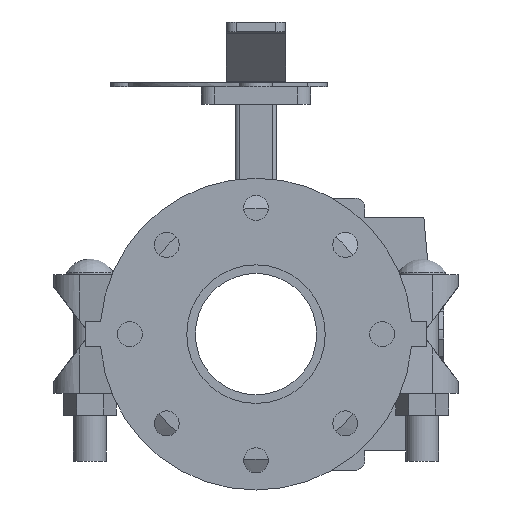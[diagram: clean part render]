
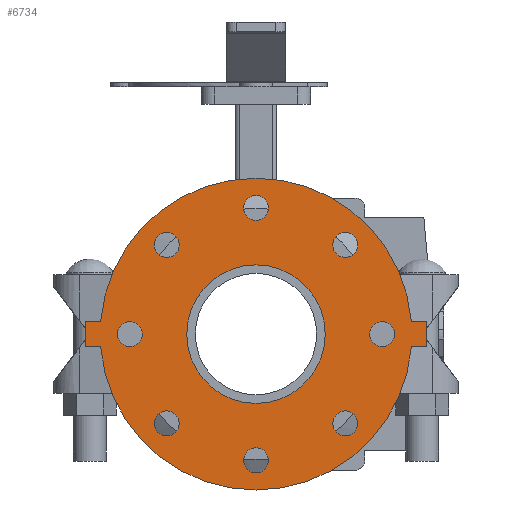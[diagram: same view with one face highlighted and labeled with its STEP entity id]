
A CAD part, front view. The second image highlights one B-rep face of the part: STEP entity #6734.
In plain terms, the highlighted planar face has unit normal (0, -1, 0) as drawn and (0, 0, -1) by its records, which use the part's own axes.
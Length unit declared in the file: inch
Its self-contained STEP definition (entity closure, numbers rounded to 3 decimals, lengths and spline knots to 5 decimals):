
#159=FACE_BOUND('',#834,.T.);
#160=FACE_BOUND('',#835,.T.);
#161=FACE_BOUND('',#836,.T.);
#162=FACE_BOUND('',#837,.T.);
#163=FACE_BOUND('',#838,.T.);
#164=FACE_BOUND('',#839,.T.);
#165=FACE_BOUND('',#840,.T.);
#166=FACE_BOUND('',#841,.T.);
#167=FACE_BOUND('',#842,.T.);
#244=PLANE('',#7299);
#462=FACE_OUTER_BOUND('',#833,.T.);
#833=EDGE_LOOP('',(#4374,#4375,#4376,#4377,#4378,#4379,#4380,#4381));
#834=EDGE_LOOP('',(#4382));
#835=EDGE_LOOP('',(#4383));
#836=EDGE_LOOP('',(#4384));
#837=EDGE_LOOP('',(#4385));
#838=EDGE_LOOP('',(#4386));
#839=EDGE_LOOP('',(#4387));
#840=EDGE_LOOP('',(#4388));
#841=EDGE_LOOP('',(#4389));
#842=EDGE_LOOP('',(#4390));
#1268=LINE('',#10213,#1787);
#1271=LINE('',#10219,#1790);
#1274=LINE('',#10224,#1793);
#1276=LINE('',#10229,#1795);
#1280=LINE('',#10236,#1799);
#1282=LINE('',#10239,#1801);
#1787=VECTOR('',#8129,0.3937);
#1790=VECTOR('',#8134,0.3937);
#1793=VECTOR('',#8139,0.3937);
#1795=VECTOR('',#8143,0.3937);
#1799=VECTOR('',#8149,0.3937);
#1801=VECTOR('',#8153,0.3937);
#2294=CIRCLE('',#7261,0.315);
#2296=CIRCLE('',#7264,0.315);
#2298=CIRCLE('',#7267,0.315);
#2300=CIRCLE('',#7270,0.315);
#2302=CIRCLE('',#7273,0.315);
#2304=CIRCLE('',#7276,0.315);
#2306=CIRCLE('',#7279,0.315);
#2308=CIRCLE('',#7282,0.315);
#2309=CIRCLE('',#7284,1.75);
#2311=CIRCLE('',#7287,3.94);
#2314=CIRCLE('',#7291,3.94);
#2681=VERTEX_POINT('',#10142);
#2683=VERTEX_POINT('',#10148);
#2685=VERTEX_POINT('',#10154);
#2687=VERTEX_POINT('',#10160);
#2689=VERTEX_POINT('',#10166);
#2691=VERTEX_POINT('',#10172);
#2693=VERTEX_POINT('',#10178);
#2695=VERTEX_POINT('',#10184);
#2696=VERTEX_POINT('',#10188);
#2698=VERTEX_POINT('',#10194);
#2700=VERTEX_POINT('',#10197);
#2702=VERTEX_POINT('',#10203);
#2705=VERTEX_POINT('',#10208);
#2706=VERTEX_POINT('',#10212);
#2708=VERTEX_POINT('',#10218);
#2710=VERTEX_POINT('',#10227);
#2711=VERTEX_POINT('',#10228);
#3329=EDGE_CURVE('',#2681,#2681,#2294,.T.);
#3332=EDGE_CURVE('',#2683,#2683,#2296,.T.);
#3335=EDGE_CURVE('',#2685,#2685,#2298,.T.);
#3338=EDGE_CURVE('',#2687,#2687,#2300,.T.);
#3341=EDGE_CURVE('',#2689,#2689,#2302,.T.);
#3344=EDGE_CURVE('',#2691,#2691,#2304,.T.);
#3347=EDGE_CURVE('',#2693,#2693,#2306,.T.);
#3350=EDGE_CURVE('',#2695,#2695,#2308,.T.);
#3351=EDGE_CURVE('',#2696,#2696,#2309,.T.);
#3355=EDGE_CURVE('',#2698,#2700,#2311,.T.);
#3361=EDGE_CURVE('',#2705,#2702,#2314,.T.);
#3362=EDGE_CURVE('',#2700,#2706,#1268,.T.);
#3365=EDGE_CURVE('',#2708,#2705,#1271,.T.);
#3368=EDGE_CURVE('',#2706,#2708,#1274,.T.);
#3370=EDGE_CURVE('',#2710,#2711,#1276,.T.);
#3374=EDGE_CURVE('',#2702,#2710,#1280,.T.);
#3376=EDGE_CURVE('',#2711,#2698,#1282,.T.);
#4374=ORIENTED_EDGE('',*,*,#3376,.F.);
#4375=ORIENTED_EDGE('',*,*,#3370,.F.);
#4376=ORIENTED_EDGE('',*,*,#3374,.F.);
#4377=ORIENTED_EDGE('',*,*,#3361,.F.);
#4378=ORIENTED_EDGE('',*,*,#3365,.F.);
#4379=ORIENTED_EDGE('',*,*,#3368,.F.);
#4380=ORIENTED_EDGE('',*,*,#3362,.F.);
#4381=ORIENTED_EDGE('',*,*,#3355,.F.);
#4382=ORIENTED_EDGE('',*,*,#3329,.T.);
#4383=ORIENTED_EDGE('',*,*,#3332,.T.);
#4384=ORIENTED_EDGE('',*,*,#3335,.T.);
#4385=ORIENTED_EDGE('',*,*,#3338,.T.);
#4386=ORIENTED_EDGE('',*,*,#3341,.T.);
#4387=ORIENTED_EDGE('',*,*,#3344,.T.);
#4388=ORIENTED_EDGE('',*,*,#3347,.T.);
#4389=ORIENTED_EDGE('',*,*,#3350,.T.);
#4390=ORIENTED_EDGE('',*,*,#3351,.T.);
#6734=ADVANCED_FACE('',(#462,#159,#160,#161,#162,#163,#164,#165,#166,#167),
#244,.F.);
#7261=AXIS2_PLACEMENT_3D('',#10144,#8053,#8054);
#7264=AXIS2_PLACEMENT_3D('',#10150,#8060,#8061);
#7267=AXIS2_PLACEMENT_3D('',#10156,#8067,#8068);
#7270=AXIS2_PLACEMENT_3D('',#10162,#8074,#8075);
#7273=AXIS2_PLACEMENT_3D('',#10168,#8081,#8082);
#7276=AXIS2_PLACEMENT_3D('',#10174,#8088,#8089);
#7279=AXIS2_PLACEMENT_3D('',#10180,#8095,#8096);
#7282=AXIS2_PLACEMENT_3D('',#10186,#8102,#8103);
#7284=AXIS2_PLACEMENT_3D('',#10189,#8106,#8107);
#7287=AXIS2_PLACEMENT_3D('',#10198,#8114,#8115);
#7291=AXIS2_PLACEMENT_3D('',#10210,#8125,#8126);
#7299=AXIS2_PLACEMENT_3D('',#10242,#8157,#8158);
#8053=DIRECTION('center_axis',(0.,0.,1.));
#8054=DIRECTION('ref_axis',(-0.707,-0.707,0.));
#8060=DIRECTION('center_axis',(0.,0.,1.));
#8061=DIRECTION('ref_axis',(-1.,0.,0.));
#8067=DIRECTION('center_axis',(0.,0.,1.));
#8068=DIRECTION('ref_axis',(-0.707,0.707,0.));
#8074=DIRECTION('center_axis',(0.,0.,1.));
#8075=DIRECTION('ref_axis',(0.,1.,0.));
#8081=DIRECTION('center_axis',(0.,0.,1.));
#8082=DIRECTION('ref_axis',(0.707,0.707,0.));
#8088=DIRECTION('center_axis',(0.,0.,1.));
#8089=DIRECTION('ref_axis',(1.,0.,0.));
#8095=DIRECTION('center_axis',(0.,0.,1.));
#8096=DIRECTION('ref_axis',(0.707,-0.707,0.));
#8102=DIRECTION('center_axis',(0.,0.,1.));
#8103=DIRECTION('ref_axis',(0.,-1.,0.));
#8106=DIRECTION('center_axis',(0.,0.,1.));
#8107=DIRECTION('ref_axis',(0.,-1.,0.));
#8114=DIRECTION('center_axis',(0.,0.,1.));
#8115=DIRECTION('ref_axis',(0.,1.,0.));
#8125=DIRECTION('center_axis',(0.,0.,1.));
#8126=DIRECTION('ref_axis',(0.,1.,0.));
#8129=DIRECTION('',(0.,-1.,0.));
#8134=DIRECTION('',(0.,1.,0.));
#8139=DIRECTION('',(1.,0.,0.));
#8143=DIRECTION('',(-1.,0.,0.));
#8149=DIRECTION('',(0.,1.,0.));
#8153=DIRECTION('',(0.,-1.,0.));
#8157=DIRECTION('center_axis',(0.,0.,1.));
#8158=DIRECTION('ref_axis',(0.,1.,0.));
#10142=CARTESIAN_POINT('',(-2.03293,2.47841,0.));
#10144=CARTESIAN_POINT('Origin',(-2.25567,2.25567,0.));
#10148=CARTESIAN_POINT('',(0.315,3.19,0.));
#10150=CARTESIAN_POINT('Origin',(0.,3.19,0.));
#10154=CARTESIAN_POINT('',(2.47841,2.03293,0.));
#10156=CARTESIAN_POINT('Origin',(2.25567,2.25567,0.));
#10160=CARTESIAN_POINT('',(3.19,-0.315,0.));
#10162=CARTESIAN_POINT('Origin',(3.19,0.,0.));
#10166=CARTESIAN_POINT('',(2.03293,-2.47841,0.));
#10168=CARTESIAN_POINT('Origin',(2.25567,-2.25567,0.));
#10172=CARTESIAN_POINT('',(-0.315,-3.19,0.));
#10174=CARTESIAN_POINT('Origin',(0.,-3.19,0.));
#10178=CARTESIAN_POINT('',(-2.47841,-2.03293,0.));
#10180=CARTESIAN_POINT('Origin',(-2.25567,-2.25567,0.));
#10184=CARTESIAN_POINT('',(-3.19,0.315,0.));
#10186=CARTESIAN_POINT('Origin',(-3.19,0.,0.));
#10188=CARTESIAN_POINT('',(0.,1.75,0.));
#10189=CARTESIAN_POINT('Origin',(0.,0.,0.));
#10194=CARTESIAN_POINT('',(-0.32,3.92698,0.));
#10197=CARTESIAN_POINT('',(-0.32,-3.92698,0.));
#10198=CARTESIAN_POINT('Origin',(0.,0.,0.));
#10203=CARTESIAN_POINT('',(0.32,3.92698,0.));
#10208=CARTESIAN_POINT('',(0.32,-3.92698,0.));
#10210=CARTESIAN_POINT('Origin',(0.,0.,0.));
#10212=CARTESIAN_POINT('',(-0.32,-4.315,0.));
#10213=CARTESIAN_POINT('',(-0.32,-3.92698,0.));
#10218=CARTESIAN_POINT('',(0.32,-4.315,0.));
#10219=CARTESIAN_POINT('',(0.32,-4.315,0.));
#10224=CARTESIAN_POINT('',(-0.32,-4.315,0.));
#10227=CARTESIAN_POINT('',(0.32,4.315,0.));
#10228=CARTESIAN_POINT('',(-0.32,4.315,0.));
#10229=CARTESIAN_POINT('',(0.32,4.315,0.));
#10236=CARTESIAN_POINT('',(0.32,3.92698,0.));
#10239=CARTESIAN_POINT('',(-0.32,4.315,0.));
#10242=CARTESIAN_POINT('Origin',(0.,4.1395,
0.));
